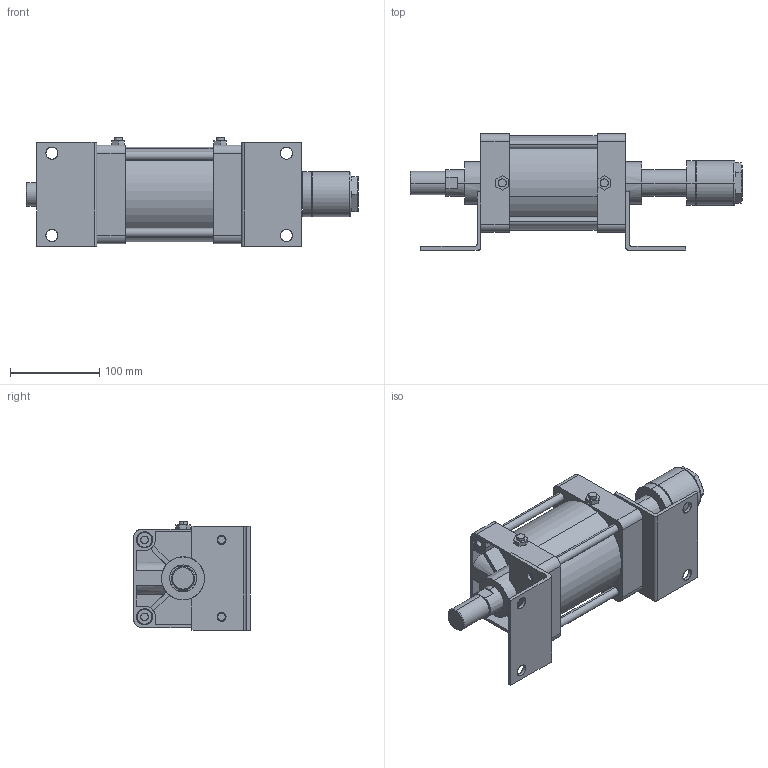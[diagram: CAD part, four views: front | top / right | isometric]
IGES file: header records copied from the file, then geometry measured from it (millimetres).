
Start section: SolidWorks IGES file using analytic representation for surfaces
Global section: file name: C:\Users\Toshiba\Desktop\KGA7-100#-50-L.IGS; native system: SolidWorks 2014; preprocessor: SolidWorks 2014; author: Toshiba; date: 160414.155518; units: millimetre
Bounding box: 371 x 130 x 121.3 mm (x, y, z)
Surface area: 297860.4 mm2 (no closed solid volume)
Topology: 0 solids, 0 shells, 396 faces, 6749 edges, 6745 vertices
Faces by surface type: bspline 215, revolution 181
